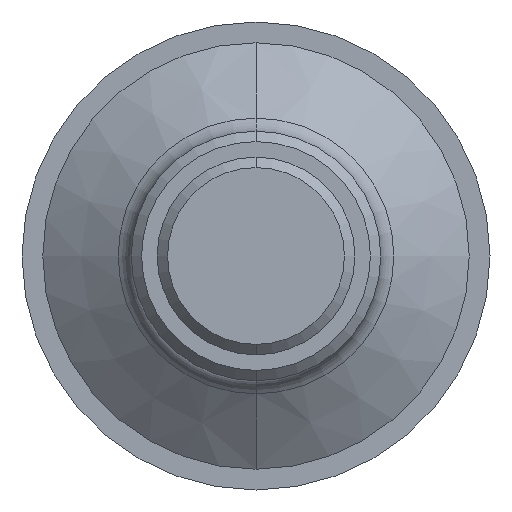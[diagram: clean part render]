
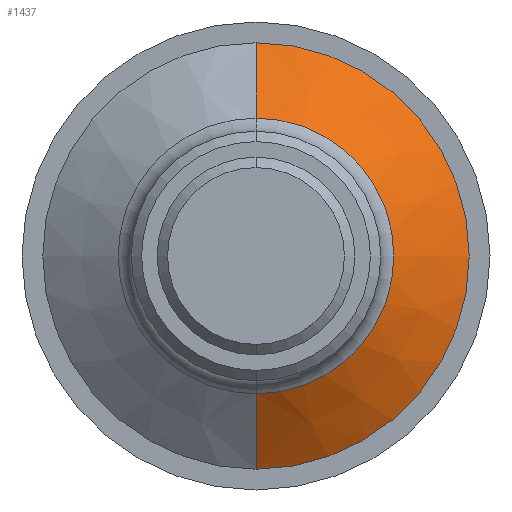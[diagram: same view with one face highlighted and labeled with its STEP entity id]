
A CAD part, front view. The second image highlights one B-rep face of the part: STEP entity #1437.
In plain terms, the highlighted conical face has half-angle 54.545 degrees and reference radius 13.26 mm.
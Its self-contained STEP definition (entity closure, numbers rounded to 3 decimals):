
#3 = LINE ( 'NONE', #375, #3291 ) ;
#11 = EDGE_CURVE ( 'NONE', #3128, #87, #1054, .T. ) ;
#87 = VERTEX_POINT ( 'NONE', #2226 ) ;
#154 = CARTESIAN_POINT ( 'NONE',  ( 0., -11.325, -20.501 ) ) ;
#301 = ORIENTED_EDGE ( 'NONE', *, *, #2303, .T. ) ;
#340 = CIRCLE ( 'NONE', #2125, 13.26 ) ;
#375 = CARTESIAN_POINT ( 'NONE',  ( 0., -16.481, -13.26 ) ) ;
#597 = AXIS2_PLACEMENT_3D ( 'NONE', #1376, #1659, #3249 ) ;
#662 = CARTESIAN_POINT ( 'NONE',  ( 0., -16.481, 0. ) ) ;
#776 = LINE ( 'NONE', #2096, #847 ) ;
#798 = EDGE_CURVE ( 'NONE', #3236, #2558, #340, .T. ) ;
#847 = VECTOR ( 'NONE', #1522, 1000. ) ;
#906 = FACE_OUTER_BOUND ( 'NONE', #2936, .T. ) ;
#950 = EDGE_CURVE ( 'NONE', #2558, #87, #776, .T. ) ;
#1054 = CIRCLE ( 'NONE', #597, 20.501 ) ;
#1224 = DIRECTION ( 'NONE',  ( 0., 0., 1. ) ) ;
#1321 = CONICAL_SURFACE ( 'NONE', #2590, 13.26, 0.952 ) ;
#1376 = CARTESIAN_POINT ( 'NONE',  ( 0., -11.325, 0. ) ) ;
#1437 = ADVANCED_FACE ( 'NONE', ( #906 ), #1321, .T. ) ;
#1466 = DIRECTION ( 'NONE',  ( 0., -1., 0. ) ) ;
#1522 = DIRECTION ( 'NONE',  ( 0., 0.58, 0.815 ) ) ;
#1659 = DIRECTION ( 'NONE',  ( 0., -1., 0. ) ) ;
#2096 = CARTESIAN_POINT ( 'NONE',  ( 0., -16.481, 13.26 ) ) ;
#2125 = AXIS2_PLACEMENT_3D ( 'NONE', #662, #1466, #2317 ) ;
#2226 = CARTESIAN_POINT ( 'NONE',  ( 0., -11.325, 20.501 ) ) ;
#2241 = CARTESIAN_POINT ( 'NONE',  ( 0., -16.481, 0. ) ) ;
#2303 = EDGE_CURVE ( 'NONE', #3236, #3128, #3, .T. ) ;
#2317 = DIRECTION ( 'NONE',  ( 0., 0., -1. ) ) ;
#2520 = ORIENTED_EDGE ( 'NONE', *, *, #11, .T. ) ;
#2522 = DIRECTION ( 'NONE',  ( 0., 1., 0. ) ) ;
#2558 = VERTEX_POINT ( 'NONE', #3350 ) ;
#2590 = AXIS2_PLACEMENT_3D ( 'NONE', #2241, #2522, #1224 ) ;
#2741 = ORIENTED_EDGE ( 'NONE', *, *, #950, .F. ) ;
#2749 = DIRECTION ( 'NONE',  ( 0., 0.58, -0.815 ) ) ;
#2921 = ORIENTED_EDGE ( 'NONE', *, *, #798, .F. ) ;
#2936 = EDGE_LOOP ( 'NONE', ( #2921, #301, #2520, #2741 ) ) ;
#3128 = VERTEX_POINT ( 'NONE', #154 ) ;
#3236 = VERTEX_POINT ( 'NONE', #3459 ) ;
#3249 = DIRECTION ( 'NONE',  ( 0., 0., -1. ) ) ;
#3291 = VECTOR ( 'NONE', #2749, 1000. ) ;
#3350 = CARTESIAN_POINT ( 'NONE',  ( 0., -16.481, 13.26 ) ) ;
#3459 = CARTESIAN_POINT ( 'NONE',  ( 0., -16.481, -13.26 ) ) ;
